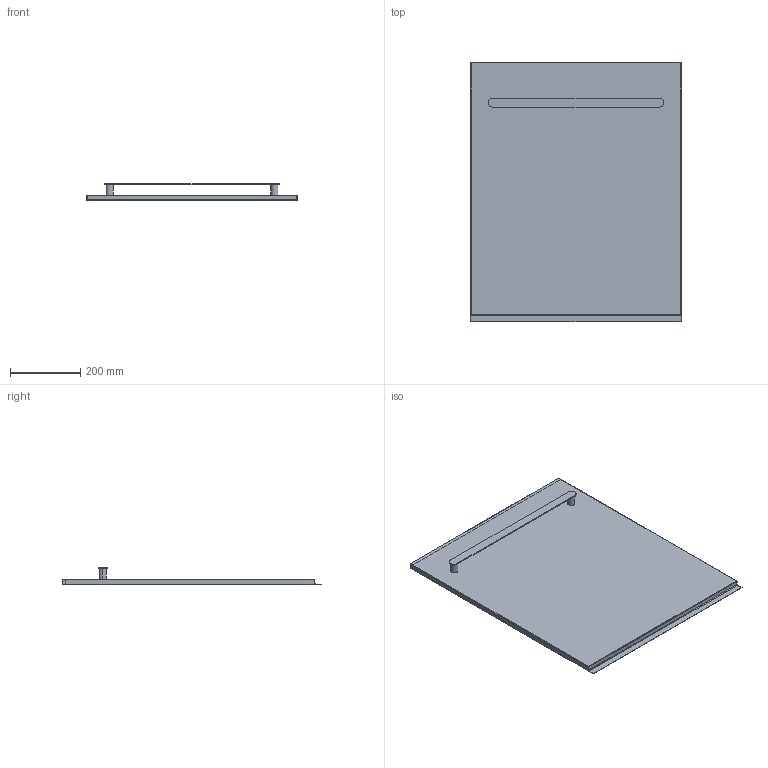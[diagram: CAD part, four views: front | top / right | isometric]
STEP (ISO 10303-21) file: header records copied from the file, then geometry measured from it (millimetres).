
FILE_DESCRIPTION((''),'2;1');
FILE_NAME('CRD_600_EXPORT_STEP','2017-11-27T',('r.avril'),(''),'PRO/ENGINEER BY PARAMETRIC TECHNOLOGY CORPORATION, 2014200','PRO/ENGINEER BY PARAMETRIC TECHNOLOGY CORPORATION, 2014200','');
FILE_SCHEMA(('AP203_CONFIGURATION_CONTROLLED_3D_DESIGN_OF_MECHANICAL_PARTS_AND_ASSEMBLIES_MIM_LF { 1 0 10303 403 2 1 2 }'));
Length unit declared in the file: millimetre
Products named in the file (1): CRD_600_EXPORT_STEP
Bounding box: 600 x 739 x 48 mm (x, y, z)
Volume: 609728.7 mm3; surface area: 990353.2 mm2
Topology: 1 solids, 1 shells, 39 faces, 86 edges, 52 vertices
Faces by surface type: plane 17, cylinder 16, sphere 4, torus 2
Entity records: 1442 total; most frequent: CARTESIAN_POINT 220, DIRECTION 218, ORIENTED_EDGE 172, EDGE_CURVE 86, AXIS2_PLACEMENT_3D 79, VECTOR 57, LINE 57, VERTEX_POINT 52
